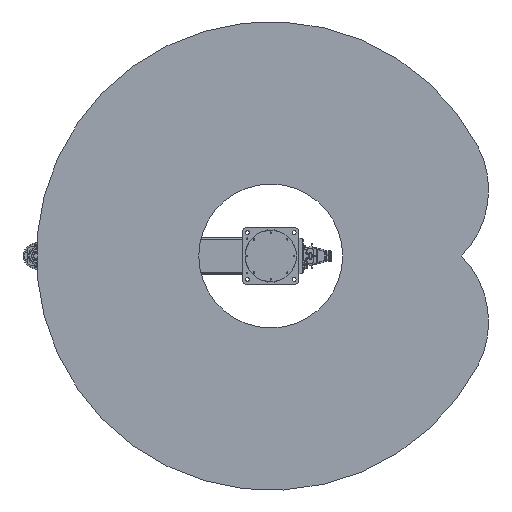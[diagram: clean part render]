
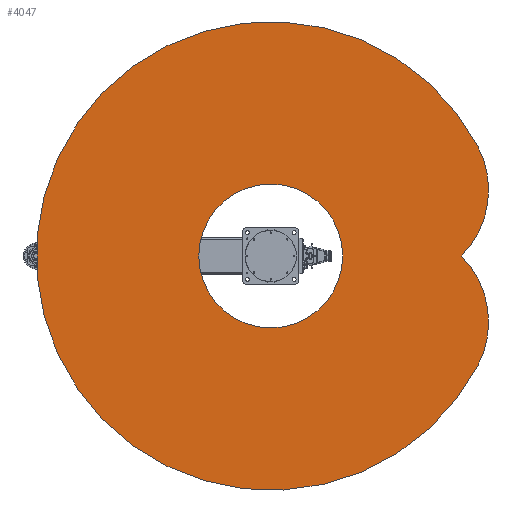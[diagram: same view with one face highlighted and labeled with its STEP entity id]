
A CAD part, front view. The second image highlights one B-rep face of the part: STEP entity #4047.
In plain terms, the highlighted planar face has unit normal (0, -1, 0).
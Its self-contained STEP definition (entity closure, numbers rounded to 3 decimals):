
#4047 = ADVANCED_FACE( '', ( #9955, #9956 ), #9957, .F. );
#9955 = FACE_BOUND( '', #18447, .T. );
#9956 = FACE_OUTER_BOUND( '', #18448, .T. );
#9957 = PLANE( '', #18449 );
#18447 = EDGE_LOOP( '', ( #31138 ) );
#18448 = EDGE_LOOP( '', ( #31139, #31140, #31141 ) );
#18449 = AXIS2_PLACEMENT_3D( '', #31142, #31143, #31144 );
#31138 = ORIENTED_EDGE( '', *, *, #48538, .T. );
#31139 = ORIENTED_EDGE( '', *, *, #48539, .F. );
#31140 = ORIENTED_EDGE( '', *, *, #48540, .F. );
#31141 = ORIENTED_EDGE( '', *, *, #48541, .F. );
#31142 = CARTESIAN_POINT( '', ( 140.842, 0., 264.885 ) );
#31143 = DIRECTION( '', ( 0., 1., 0. ) );
#31144 = DIRECTION( '', ( 0., 0., 1. ) );
#48538 = EDGE_CURVE( '', #58588, #58588, #58589, .T. );
#48539 = EDGE_CURVE( '', #58590, #58591, #58592, .T. );
#48540 = EDGE_CURVE( '', #58593, #58590, #58594, .T. );
#48541 = EDGE_CURVE( '', #58591, #58593, #58595, .T. );
#58588 = VERTEX_POINT( '', #73961 );
#58589 = CIRCLE( '', #73962, 307. );
#58590 = VERTEX_POINT( '', #73963 );
#58591 = VERTEX_POINT( '', #73964 );
#58592 = CIRCLE( '', #73965, 400. );
#58593 = VERTEX_POINT( '', #73966 );
#58594 = CIRCLE( '', #73967, 400. );
#58595 = CIRCLE( '', #73968, 1000. );
#73961 = CARTESIAN_POINT( '', ( 307., 0., 0. ) );
#73962 = AXIS2_PLACEMENT_3D( '', #87900, #87901, #87902 );
#73963 = CARTESIAN_POINT( '', ( 0., 0., 813.767 ) );
#73964 = CARTESIAN_POINT( '', ( 470.133, 0., 882.596 ) );
#73965 = AXIS2_PLACEMENT_3D( '', #87903, #87904, #87905 );
#73966 = CARTESIAN_POINT( '', ( -470.133, 0., 882.596 ) );
#73967 = AXIS2_PLACEMENT_3D( '', #87906, #87907, #87908 );
#73968 = AXIS2_PLACEMENT_3D( '', #87909, #87910, #87911 );
#87900 = CARTESIAN_POINT( '', ( 0., 0., 0. ) );
#87901 = DIRECTION( '', ( 0., 1., 0. ) );
#87902 = DIRECTION( '', ( 1., 0., 0. ) );
#87903 = CARTESIAN_POINT( '', ( 281.683, 0., 529.769 ) );
#87904 = DIRECTION( '', ( 0., 1., 0. ) );
#87905 = DIRECTION( '', ( 1., 0., 0. ) );
#87906 = CARTESIAN_POINT( '', ( -281.683, 0., 529.769 ) );
#87907 = DIRECTION( '', ( 0., 1., 0. ) );
#87908 = DIRECTION( '', ( 1., 0., 0. ) );
#87909 = CARTESIAN_POINT( '', ( 0., 0., 0. ) );
#87910 = DIRECTION( '', ( 0., 1., 0. ) );
#87911 = DIRECTION( '', ( 1., 0., 0. ) );
